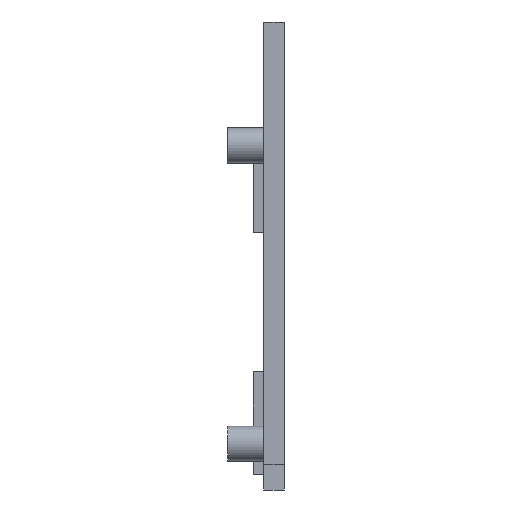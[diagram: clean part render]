
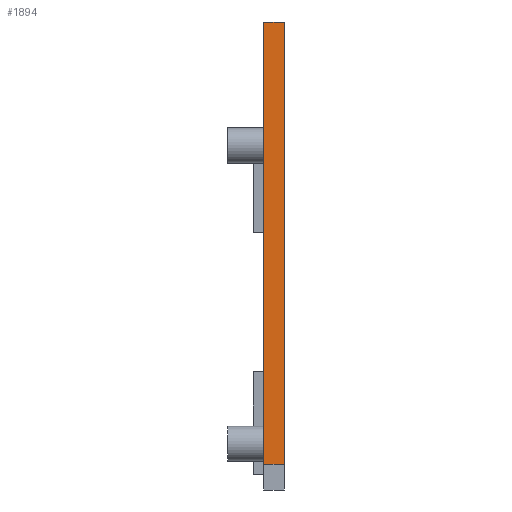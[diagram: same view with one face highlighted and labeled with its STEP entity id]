
A CAD part, left-side view. The second image highlights one B-rep face of the part: STEP entity #1894.
In plain terms, the highlighted planar face has unit normal (-1, 0, 0).
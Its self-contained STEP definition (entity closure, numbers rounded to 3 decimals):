
#127 = PLANE('',#128);
#128 = AXIS2_PLACEMENT_3D('',#129,#130,#131);
#129 = CARTESIAN_POINT('',(-30.,13.,-253.));
#130 = DIRECTION('',(0.,1.,0.));
#131 = DIRECTION('',(0.,-0.,1.));
#198 = PLANE('',#199);
#199 = AXIS2_PLACEMENT_3D('',#200,#201,#202);
#200 = CARTESIAN_POINT('',(-30.,17.,-253.));
#201 = DIRECTION('',(0.,1.,0.));
#202 = DIRECTION('',(0.,-0.,1.));
#1188 = VERTEX_POINT('',#1189);
#1189 = CARTESIAN_POINT('',(-30.,13.,-253.));
#1203 = PLANE('',#1204);
#1204 = AXIS2_PLACEMENT_3D('',#1205,#1206,#1207);
#1205 = CARTESIAN_POINT('',(-30.,13.,-253.));
#1206 = DIRECTION('',(0.,0.,1.));
#1207 = DIRECTION('',(1.,0.,-0.));
#1356 = VERTEX_POINT('',#1357);
#1357 = CARTESIAN_POINT('',(-30.,13.,-167.));
#1371 = PLANE('',#1372);
#1372 = AXIS2_PLACEMENT_3D('',#1373,#1374,#1375);
#1373 = CARTESIAN_POINT('',(-30.,13.,-167.));
#1374 = DIRECTION('',(0.,0.,1.));
#1375 = DIRECTION('',(1.,0.,-0.));
#1383 = EDGE_CURVE('',#1188,#1356,#1384,.T.);
#1384 = SURFACE_CURVE('',#1385,(#1389,#1396),.PCURVE_S1.);
#1385 = LINE('',#1386,#1387);
#1386 = CARTESIAN_POINT('',(-30.,13.,-253.));
#1387 = VECTOR('',#1388,1.);
#1388 = DIRECTION('',(0.,-0.,1.));
#1389 = PCURVE('',#127,#1390);
#1390 = DEFINITIONAL_REPRESENTATION('',(#1391),#1395);
#1391 = LINE('',#1392,#1393);
#1392 = CARTESIAN_POINT('',(0.,0.));
#1393 = VECTOR('',#1394,1.);
#1394 = DIRECTION('',(1.,0.));
#1395 = ( GEOMETRIC_REPRESENTATION_CONTEXT(2) 
PARAMETRIC_REPRESENTATION_CONTEXT() REPRESENTATION_CONTEXT('2D SPACE',''
  ) );
#1396 = PCURVE('',#1397,#1402);
#1397 = PLANE('',#1398);
#1398 = AXIS2_PLACEMENT_3D('',#1399,#1400,#1401);
#1399 = CARTESIAN_POINT('',(-30.,13.,-253.));
#1400 = DIRECTION('',(1.,0.,-0.));
#1401 = DIRECTION('',(-0.,0.,-1.));
#1402 = DEFINITIONAL_REPRESENTATION('',(#1403),#1407);
#1403 = LINE('',#1404,#1405);
#1404 = CARTESIAN_POINT('',(0.,0.));
#1405 = VECTOR('',#1406,1.);
#1406 = DIRECTION('',(-1.,0.));
#1407 = ( GEOMETRIC_REPRESENTATION_CONTEXT(2) 
PARAMETRIC_REPRESENTATION_CONTEXT() REPRESENTATION_CONTEXT('2D SPACE',''
  ) );
#1851 = VERTEX_POINT('',#1852);
#1852 = CARTESIAN_POINT('',(-30.,17.,-167.));
#1873 = EDGE_CURVE('',#1851,#1356,#1874,.T.);
#1874 = SURFACE_CURVE('',#1875,(#1879,#1886),.PCURVE_S1.);
#1875 = LINE('',#1876,#1877);
#1876 = CARTESIAN_POINT('',(-30.,13.,-167.));
#1877 = VECTOR('',#1878,1.);
#1878 = DIRECTION('',(0.,-1.,-0.));
#1879 = PCURVE('',#1371,#1880);
#1880 = DEFINITIONAL_REPRESENTATION('',(#1881),#1885);
#1881 = LINE('',#1882,#1883);
#1882 = CARTESIAN_POINT('',(0.,0.));
#1883 = VECTOR('',#1884,1.);
#1884 = DIRECTION('',(0.,-1.));
#1885 = ( GEOMETRIC_REPRESENTATION_CONTEXT(2) 
PARAMETRIC_REPRESENTATION_CONTEXT() REPRESENTATION_CONTEXT('2D SPACE',''
  ) );
#1886 = PCURVE('',#1397,#1887);
#1887 = DEFINITIONAL_REPRESENTATION('',(#1888),#1892);
#1888 = LINE('',#1889,#1890);
#1889 = CARTESIAN_POINT('',(-86.,0.));
#1890 = VECTOR('',#1891,1.);
#1891 = DIRECTION('',(-0.,-1.));
#1892 = ( GEOMETRIC_REPRESENTATION_CONTEXT(2) 
PARAMETRIC_REPRESENTATION_CONTEXT() REPRESENTATION_CONTEXT('2D SPACE',''
  ) );
#1894 = ADVANCED_FACE('',(#1895),#1397,.F.);
#1895 = FACE_BOUND('',#1896,.T.);
#1896 = EDGE_LOOP('',(#1897,#1920,#1941,#1942));
#1897 = ORIENTED_EDGE('',*,*,#1898,.F.);
#1898 = EDGE_CURVE('',#1899,#1851,#1901,.T.);
#1899 = VERTEX_POINT('',#1900);
#1900 = CARTESIAN_POINT('',(-30.,17.,-253.));
#1901 = SURFACE_CURVE('',#1902,(#1906,#1913),.PCURVE_S1.);
#1902 = LINE('',#1903,#1904);
#1903 = CARTESIAN_POINT('',(-30.,17.,-253.));
#1904 = VECTOR('',#1905,1.);
#1905 = DIRECTION('',(0.,-0.,1.));
#1906 = PCURVE('',#1397,#1907);
#1907 = DEFINITIONAL_REPRESENTATION('',(#1908),#1912);
#1908 = LINE('',#1909,#1910);
#1909 = CARTESIAN_POINT('',(0.,4.));
#1910 = VECTOR('',#1911,1.);
#1911 = DIRECTION('',(-1.,0.));
#1912 = ( GEOMETRIC_REPRESENTATION_CONTEXT(2) 
PARAMETRIC_REPRESENTATION_CONTEXT() REPRESENTATION_CONTEXT('2D SPACE',''
  ) );
#1913 = PCURVE('',#198,#1914);
#1914 = DEFINITIONAL_REPRESENTATION('',(#1915),#1919);
#1915 = LINE('',#1916,#1917);
#1916 = CARTESIAN_POINT('',(0.,0.));
#1917 = VECTOR('',#1918,1.);
#1918 = DIRECTION('',(1.,0.));
#1919 = ( GEOMETRIC_REPRESENTATION_CONTEXT(2) 
PARAMETRIC_REPRESENTATION_CONTEXT() REPRESENTATION_CONTEXT('2D SPACE',''
  ) );
#1920 = ORIENTED_EDGE('',*,*,#1921,.F.);
#1921 = EDGE_CURVE('',#1188,#1899,#1922,.T.);
#1922 = SURFACE_CURVE('',#1923,(#1927,#1934),.PCURVE_S1.);
#1923 = LINE('',#1924,#1925);
#1924 = CARTESIAN_POINT('',(-30.,13.,-253.));
#1925 = VECTOR('',#1926,1.);
#1926 = DIRECTION('',(0.,1.,0.));
#1927 = PCURVE('',#1397,#1928);
#1928 = DEFINITIONAL_REPRESENTATION('',(#1929),#1933);
#1929 = LINE('',#1930,#1931);
#1930 = CARTESIAN_POINT('',(0.,0.));
#1931 = VECTOR('',#1932,1.);
#1932 = DIRECTION('',(0.,1.));
#1933 = ( GEOMETRIC_REPRESENTATION_CONTEXT(2) 
PARAMETRIC_REPRESENTATION_CONTEXT() REPRESENTATION_CONTEXT('2D SPACE',''
  ) );
#1934 = PCURVE('',#1203,#1935);
#1935 = DEFINITIONAL_REPRESENTATION('',(#1936),#1940);
#1936 = LINE('',#1937,#1938);
#1937 = CARTESIAN_POINT('',(0.,0.));
#1938 = VECTOR('',#1939,1.);
#1939 = DIRECTION('',(0.,1.));
#1940 = ( GEOMETRIC_REPRESENTATION_CONTEXT(2) 
PARAMETRIC_REPRESENTATION_CONTEXT() REPRESENTATION_CONTEXT('2D SPACE',''
  ) );
#1941 = ORIENTED_EDGE('',*,*,#1383,.T.);
#1942 = ORIENTED_EDGE('',*,*,#1873,.F.);
